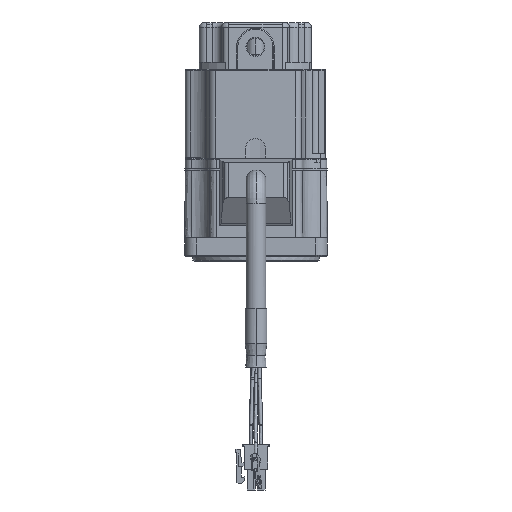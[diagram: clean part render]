
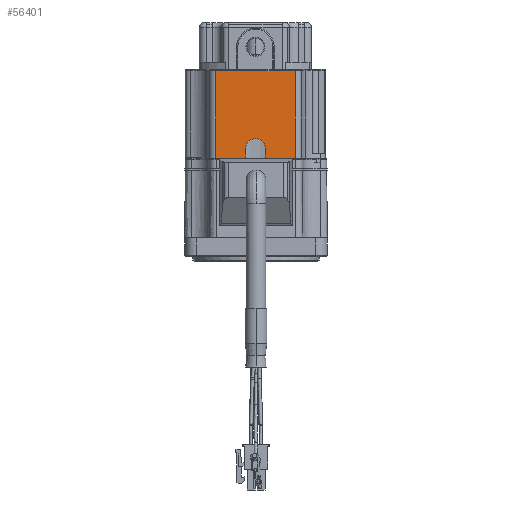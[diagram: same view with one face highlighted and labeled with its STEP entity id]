
A CAD part, front view. The second image highlights one B-rep face of the part: STEP entity #56401.
In plain terms, the highlighted planar face has unit normal (0, -1, 0).
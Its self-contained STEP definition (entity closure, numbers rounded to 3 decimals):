
#21 = CARTESIAN_POINT ( 'NONE',  ( 4.396, -30., 0.146 ) ) ;
#131 = CIRCLE ( 'NONE', #15599, 4.25 ) ;
#658 = VERTEX_POINT ( 'NONE', #41858 ) ;
#838 = AXIS2_PLACEMENT_3D ( 'NONE', #38278, #17235, #40106 ) ;
#1063 = DIRECTION ( 'NONE',  ( 0., 0., -1. ) ) ;
#1174 = CARTESIAN_POINT ( 'NONE',  ( -17., -30., 0. ) ) ;
#1230 = DIRECTION ( 'NONE',  ( 0., 1., 0. ) ) ;
#2366 = VECTOR ( 'NONE', #1063, 1000. ) ;
#2457 = EDGE_CURVE ( 'NONE', #26158, #47766, #131, .T. ) ;
#2632 = VECTOR ( 'NONE', #29141, 1000. ) ;
#2877 = AXIS2_PLACEMENT_3D ( 'NONE', #50414, #45598, #8741 ) ;
#3210 = ORIENTED_EDGE ( 'NONE', *, *, #50608, .F. ) ;
#4350 = CARTESIAN_POINT ( 'NONE',  ( 17., -30., 37.5 ) ) ;
#5497 = EDGE_LOOP ( 'NONE', ( #9385, #51361, #55868, #52935, #32099, #30919, #45127, #3210, #29769, #32018, #46763, #21072 ) ) ;
#5874 = VERTEX_POINT ( 'NONE', #4350 ) ;
#7230 = VERTEX_POINT ( 'NONE', #52981 ) ;
#7841 = AXIS2_PLACEMENT_3D ( 'NONE', #48305, #24567, #52867 ) ;
#8741 = DIRECTION ( 'NONE',  ( 0.707, 0., -0.707 ) ) ;
#8757 = EDGE_CURVE ( 'NONE', #30042, #5874, #15731, .T. ) ;
#8868 = LINE ( 'NONE', #13433, #58300 ) ;
#9385 = ORIENTED_EDGE ( 'NONE', *, *, #13046, .F. ) ;
#10658 = DIRECTION ( 'NONE',  ( 0., 0., 1. ) ) ;
#11517 = DIRECTION ( 'NONE',  ( 0., 1., 0. ) ) ;
#12058 = CARTESIAN_POINT ( 'NONE',  ( 4.75, -30., 0. ) ) ;
#12438 = CARTESIAN_POINT ( 'NONE',  ( 4.75, -30., 0. ) ) ;
#12440 = EDGE_CURVE ( 'NONE', #28895, #47225, #41017, .T. ) ;
#12524 = CIRCLE ( 'NONE', #838, 0.5 ) ;
#12799 = EDGE_CURVE ( 'NONE', #28895, #30042, #8868, .T. ) ;
#12968 = VERTEX_POINT ( 'NONE', #38673 ) ;
#13046 = EDGE_CURVE ( 'NONE', #33642, #28292, #17470, .T. ) ;
#13327 = EDGE_CURVE ( 'NONE', #28292, #12968, #42819, .T. ) ;
#13422 = VERTEX_POINT ( 'NONE', #57747 ) ;
#13433 = CARTESIAN_POINT ( 'NONE',  ( -17., -30., 0. ) ) ;
#14910 = CARTESIAN_POINT ( 'NONE',  ( 4.75, -30., 0.5 ) ) ;
#14931 = LINE ( 'NONE', #30140, #56765 ) ;
#15599 = AXIS2_PLACEMENT_3D ( 'NONE', #57788, #11517, #24301 ) ;
#15731 = LINE ( 'NONE', #57730, #2632 ) ;
#17077 = EDGE_CURVE ( 'NONE', #13422, #5874, #18946, .T. ) ;
#17235 = DIRECTION ( 'NONE',  ( 0., 1., 0. ) ) ;
#17470 = CIRCLE ( 'NONE', #28221, 0.5 ) ;
#17537 = CARTESIAN_POINT ( 'NONE',  ( -17., -30., 37.5 ) ) ;
#18946 = LINE ( 'NONE', #37542, #37194 ) ;
#19583 = AXIS2_PLACEMENT_3D ( 'NONE', #1174, #38315, #56852 ) ;
#19750 = VECTOR ( 'NONE', #45028, 1000. ) ;
#21072 = ORIENTED_EDGE ( 'NONE', *, *, #13327, .F. ) ;
#21492 = CARTESIAN_POINT ( 'NONE',  ( -17., -30., 0. ) ) ;
#21874 = LINE ( 'NONE', #12438, #19750 ) ;
#22514 = EDGE_CURVE ( 'NONE', #658, #26158, #14931, .T. ) ;
#24301 = DIRECTION ( 'NONE',  ( 1., 0., 0. ) ) ;
#24567 = DIRECTION ( 'NONE',  ( 0., 1., 0. ) ) ;
#26158 = VERTEX_POINT ( 'NONE', #43418 ) ;
#27298 = DIRECTION ( 'NONE',  ( 1., 0., 0. ) ) ;
#28221 = AXIS2_PLACEMENT_3D ( 'NONE', #14910, #1230, #52321 ) ;
#28292 = VERTEX_POINT ( 'NONE', #21 ) ;
#28366 = CARTESIAN_POINT ( 'NONE',  ( -4.75, -30., 0. ) ) ;
#28895 = VERTEX_POINT ( 'NONE', #21492 ) ;
#29141 = DIRECTION ( 'NONE',  ( 1., 0., 0. ) ) ;
#29452 = EDGE_CURVE ( 'NONE', #33642, #13422, #21874, .T. ) ;
#29769 = ORIENTED_EDGE ( 'NONE', *, *, #22514, .T. ) ;
#30042 = VERTEX_POINT ( 'NONE', #17537 ) ;
#30140 = CARTESIAN_POINT ( 'NONE',  ( -4.25, -30., 0.5 ) ) ;
#30919 = ORIENTED_EDGE ( 'NONE', *, *, #12440, .T. ) ;
#32018 = ORIENTED_EDGE ( 'NONE', *, *, #2457, .T. ) ;
#32099 = ORIENTED_EDGE ( 'NONE', *, *, #12799, .F. ) ;
#33642 = VERTEX_POINT ( 'NONE', #12058 ) ;
#34961 = VECTOR ( 'NONE', #27298, 1000. ) ;
#37193 = DIRECTION ( 'NONE',  ( 0., 0., 1. ) ) ;
#37194 = VECTOR ( 'NONE', #56361, 1000. ) ;
#37542 = CARTESIAN_POINT ( 'NONE',  ( 17., -30., 0. ) ) ;
#37612 = CARTESIAN_POINT ( 'NONE',  ( 4.25, -30., 4.2 ) ) ;
#38278 = CARTESIAN_POINT ( 'NONE',  ( -4.75, -30., 0.5 ) ) ;
#38315 = DIRECTION ( 'NONE',  ( 0., -1., 0. ) ) ;
#38673 = CARTESIAN_POINT ( 'NONE',  ( 4.25, -30., 0.5 ) ) ;
#40106 = DIRECTION ( 'NONE',  ( 0.707, 0., -0.707 ) ) ;
#41017 = LINE ( 'NONE', #45564, #34961 ) ;
#41858 = CARTESIAN_POINT ( 'NONE',  ( -4.25, -30., 0.5 ) ) ;
#42579 = FACE_OUTER_BOUND ( 'NONE', #5497, .T. ) ;
#42819 = CIRCLE ( 'NONE', #7841, 0.5 ) ;
#43187 = PLANE ( 'NONE',  #19583 ) ;
#43418 = CARTESIAN_POINT ( 'NONE',  ( -4.25, -30., 4.2 ) ) ;
#45028 = DIRECTION ( 'NONE',  ( 1., 0., 0. ) ) ;
#45127 = ORIENTED_EDGE ( 'NONE', *, *, #53619, .F. ) ;
#45276 = EDGE_CURVE ( 'NONE', #47766, #12968, #52464, .T. ) ;
#45564 = CARTESIAN_POINT ( 'NONE',  ( -17., -30., 0. ) ) ;
#45598 = DIRECTION ( 'NONE',  ( 0., 1., 0. ) ) ;
#46763 = ORIENTED_EDGE ( 'NONE', *, *, #45276, .T. ) ;
#47225 = VERTEX_POINT ( 'NONE', #28366 ) ;
#47766 = VERTEX_POINT ( 'NONE', #49822 ) ;
#48305 = CARTESIAN_POINT ( 'NONE',  ( 4.75, -30., 0.5 ) ) ;
#49505 = CIRCLE ( 'NONE', #2877, 0.5 ) ;
#49822 = CARTESIAN_POINT ( 'NONE',  ( 4.25, -30., 4.2 ) ) ;
#50414 = CARTESIAN_POINT ( 'NONE',  ( -4.75, -30., 0.5 ) ) ;
#50608 = EDGE_CURVE ( 'NONE', #658, #7230, #12524, .T. ) ;
#51361 = ORIENTED_EDGE ( 'NONE', *, *, #29452, .T. ) ;
#52321 = DIRECTION ( 'NONE',  ( -0.707, 0., -0.707 ) ) ;
#52464 = LINE ( 'NONE', #37612, #2366 ) ;
#52867 = DIRECTION ( 'NONE',  ( -0.707, 0., -0.707 ) ) ;
#52935 = ORIENTED_EDGE ( 'NONE', *, *, #8757, .F. ) ;
#52981 = CARTESIAN_POINT ( 'NONE',  ( -4.396, -30., 0.146 ) ) ;
#53619 = EDGE_CURVE ( 'NONE', #7230, #47225, #49505, .T. ) ;
#55868 = ORIENTED_EDGE ( 'NONE', *, *, #17077, .T. ) ;
#56361 = DIRECTION ( 'NONE',  ( 0., 0., 1. ) ) ;
#56401 = ADVANCED_FACE ( 'NONE', ( #42579 ), #43187, .T. ) ;
#56765 = VECTOR ( 'NONE', #10658, 1000. ) ;
#56852 = DIRECTION ( 'NONE',  ( 0., 0., -1. ) ) ;
#57730 = CARTESIAN_POINT ( 'NONE',  ( -17., -30., 37.5 ) ) ;
#57747 = CARTESIAN_POINT ( 'NONE',  ( 17., -30., 0. ) ) ;
#57788 = CARTESIAN_POINT ( 'NONE',  ( 0., -30., 4.2 ) ) ;
#58300 = VECTOR ( 'NONE', #37193, 1000. ) ;
